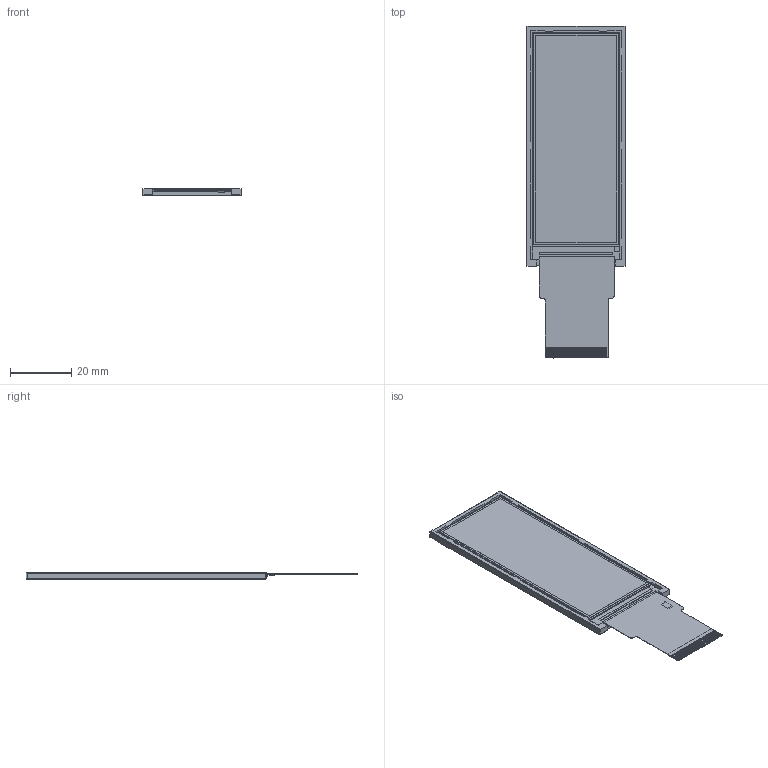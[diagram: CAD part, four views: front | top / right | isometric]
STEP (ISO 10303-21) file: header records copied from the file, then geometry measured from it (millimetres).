
FILE_DESCRIPTION (( 'STEP AP203' ), '1' );
FILE_NAME ('NHD-2.9-376960AF-ASXP_Rev1A-T029376960-A0-005_I-20250120.STEP', '2025-02-25T20:24:24', ( '' ), ( '' ), 'SwSTEP 2.0', 'SolidWorks 2019', '' );
FILE_SCHEMA (( 'CONFIG_CONTROL_DESIGN' ));
Length unit declared in the file: millimetre
Products named in the file (2): NHD-2.9-376960AF-ASXP_Rev1A-T029376960-A0-005_I-20250120
Bounding box: 32.6 x 108.7 x 2.21 mm (x, y, z)
Volume: 5464.1 mm3; surface area: 8505.3 mm2
Topology: 1 solids, 1 shells, 332 faces, 841 edges, 556 vertices
Faces by surface type: plane 317, bspline 10, cylinder 5
Entity records: 10329 total; most frequent: CARTESIAN_POINT 2244, ORIENTED_EDGE 1682, DIRECTION 1476, EDGE_CURVE 841, LINE 808, VECTOR 808, VERTEX_POINT 556, EDGE_LOOP 379
